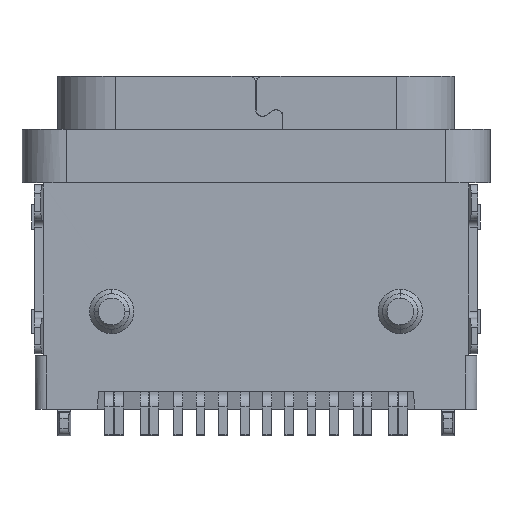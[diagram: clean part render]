
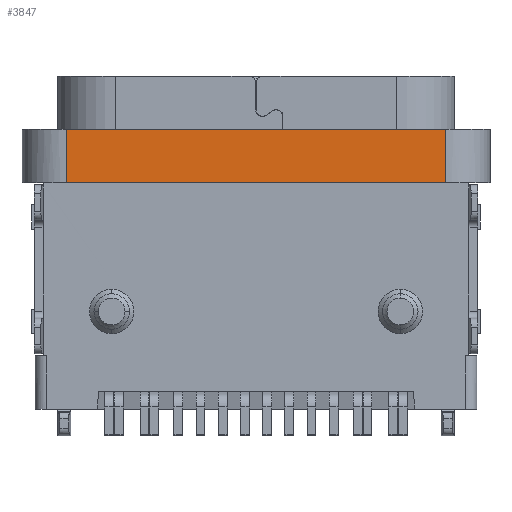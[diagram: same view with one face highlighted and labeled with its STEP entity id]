
A CAD part, front view. The second image highlights one B-rep face of the part: STEP entity #3847.
In plain terms, the highlighted planar face has unit normal (0, -1, 0).
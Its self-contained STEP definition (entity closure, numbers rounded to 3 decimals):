
#799 = VECTOR ( 'NONE', #14565, 1000. ) ;
#1084 = CARTESIAN_POINT ( 'NONE',  ( -4.27, -2.38, 2.1 ) ) ;
#1806 = CARTESIAN_POINT ( 'NONE',  ( -6.5, -2.38, 2.1 ) ) ;
#3847 = ADVANCED_FACE ( 'NONE', ( #11141 ), #28098, .T. ) ;
#4697 = LINE ( 'NONE', #28347, #16030 ) ;
#5159 = EDGE_LOOP ( 'NONE', ( #5365, #6437, #8205, #30025 ) ) ;
#5365 = ORIENTED_EDGE ( 'NONE', *, *, #29352, .T. ) ;
#6053 = DIRECTION ( 'NONE',  ( 0., 0., -1. ) ) ;
#6363 = CARTESIAN_POINT ( 'NONE',  ( -4.27, -2.38, 3.3 ) ) ;
#6437 = ORIENTED_EDGE ( 'NONE', *, *, #6729, .T. ) ;
#6729 = EDGE_CURVE ( 'NONE', #28841, #19639, #4697, .T. ) ;
#8205 = ORIENTED_EDGE ( 'NONE', *, *, #24190, .T. ) ;
#8269 = AXIS2_PLACEMENT_3D ( 'NONE', #6363, #23044, #6053 ) ;
#10816 = VECTOR ( 'NONE', #20874, 1000. ) ;
#11141 = FACE_OUTER_BOUND ( 'NONE', #5159, .T. ) ;
#11199 = CARTESIAN_POINT ( 'NONE',  ( -4.27, -2.38, 3.3 ) ) ;
#11652 = DIRECTION ( 'NONE',  ( 1., 0., 0. ) ) ;
#11701 = VERTEX_POINT ( 'NONE', #18396 ) ;
#12567 = EDGE_CURVE ( 'NONE', #24801, #11701, #26087, .T. ) ;
#12711 = VECTOR ( 'NONE', #11652, 1000. ) ;
#14402 = DIRECTION ( 'NONE',  ( -1., 0., 0. ) ) ;
#14565 = DIRECTION ( 'NONE',  ( 0., 0., 1. ) ) ;
#16030 = VECTOR ( 'NONE', #14402, 1000. ) ;
#18396 = CARTESIAN_POINT ( 'NONE',  ( 4.27, -2.38, 2.1 ) ) ;
#19639 = VERTEX_POINT ( 'NONE', #21592 ) ;
#20874 = DIRECTION ( 'NONE',  ( 0., 0., -1. ) ) ;
#21592 = CARTESIAN_POINT ( 'NONE',  ( -4.27, -2.38, 3.3 ) ) ;
#23044 = DIRECTION ( 'NONE',  ( 0., -1., 0. ) ) ;
#23409 = LINE ( 'NONE', #11199, #10816 ) ;
#23647 = CARTESIAN_POINT ( 'NONE',  ( 4.27, -2.38, 3.3 ) ) ;
#24190 = EDGE_CURVE ( 'NONE', #19639, #24801, #23409, .T. ) ;
#24801 = VERTEX_POINT ( 'NONE', #1084 ) ;
#24863 = LINE ( 'NONE', #28968, #799 ) ;
#26087 = LINE ( 'NONE', #1806, #12711 ) ;
#28098 = PLANE ( 'NONE',  #8269 ) ;
#28347 = CARTESIAN_POINT ( 'NONE',  ( -4.27, -2.38, 3.3 ) ) ;
#28841 = VERTEX_POINT ( 'NONE', #23647 ) ;
#28968 = CARTESIAN_POINT ( 'NONE',  ( 4.27, -2.38, 3.3 ) ) ;
#29352 = EDGE_CURVE ( 'NONE', #11701, #28841, #24863, .T. ) ;
#30025 = ORIENTED_EDGE ( 'NONE', *, *, #12567, .T. ) ;
